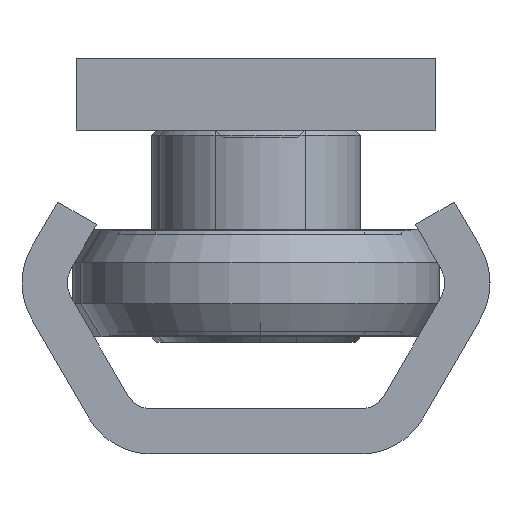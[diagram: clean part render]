
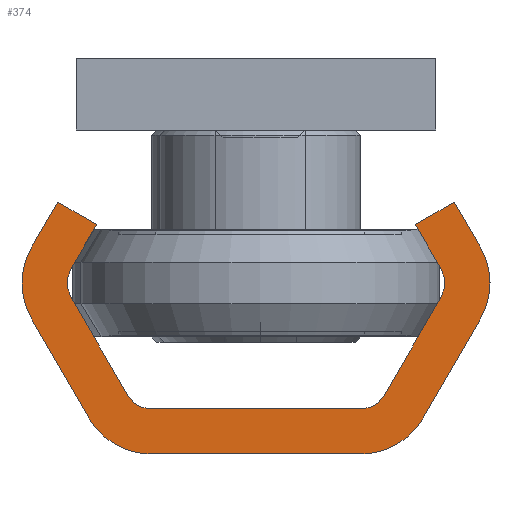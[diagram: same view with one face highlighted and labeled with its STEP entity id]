
A CAD part, left-side view. The second image highlights one B-rep face of the part: STEP entity #374.
In plain terms, the highlighted planar face has unit normal (-1, 0, 0).
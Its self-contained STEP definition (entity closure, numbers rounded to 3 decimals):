
#374 = ADVANCED_FACE( '', ( #838 ), #839, .F. );
#838 = FACE_OUTER_BOUND( '', #1552, .T. );
#839 = PLANE( '', #1553 );
#1552 = EDGE_LOOP( '', ( #2494, #2495, #2496, #2497, #2498, #2499, #2500, #2501, #2502, #2503, #2504, #2505, #2506, #2507, #2508, #2509, #2510, #2511, #2512, #2513 ) );
#1553 = AXIS2_PLACEMENT_3D( '', #2514, #2515, #2516 );
#2494 = ORIENTED_EDGE( '', *, *, #3703, .F. );
#2495 = ORIENTED_EDGE( '', *, *, #3647, .F. );
#2496 = ORIENTED_EDGE( '', *, *, #3704, .F. );
#2497 = ORIENTED_EDGE( '', *, *, #3705, .F. );
#2498 = ORIENTED_EDGE( '', *, *, #3706, .F. );
#2499 = ORIENTED_EDGE( '', *, *, #3707, .F. );
#2500 = ORIENTED_EDGE( '', *, *, #3639, .F. );
#2501 = ORIENTED_EDGE( '', *, *, #3708, .T. );
#2502 = ORIENTED_EDGE( '', *, *, #3709, .F. );
#2503 = ORIENTED_EDGE( '', *, *, #3710, .T. );
#2504 = ORIENTED_EDGE( '', *, *, #3631, .F. );
#2505 = ORIENTED_EDGE( '', *, *, #3636, .T. );
#2506 = ORIENTED_EDGE( '', *, *, #3602, .F. );
#2507 = ORIENTED_EDGE( '', *, *, #3711, .T. );
#2508 = ORIENTED_EDGE( '', *, *, #3712, .F. );
#2509 = ORIENTED_EDGE( '', *, *, #3713, .F. );
#2510 = ORIENTED_EDGE( '', *, *, #3714, .F. );
#2511 = ORIENTED_EDGE( '', *, *, #3715, .F. );
#2512 = ORIENTED_EDGE( '', *, *, #3716, .F. );
#2513 = ORIENTED_EDGE( '', *, *, #3717, .F. );
#2514 = CARTESIAN_POINT( '', ( 0., -5.825, -4. ) );
#2515 = DIRECTION( '', ( 1., 0., 0. ) );
#2516 = DIRECTION( '', ( 0., 0., -1. ) );
#3602 = EDGE_CURVE( '', #4110, #4111, #4112, .T. );
#3631 = EDGE_CURVE( '', #4165, #4166, #4167, .T. );
#3636 = EDGE_CURVE( '', #4165, #4111, #4174, .T. );
#3639 = EDGE_CURVE( '', #4177, #4178, #4179, .T. );
#3647 = EDGE_CURVE( '', #4191, #4192, #4193, .T. );
#3703 = EDGE_CURVE( '', #4192, #4285, #4286, .T. );
#3704 = EDGE_CURVE( '', #4287, #4191, #4288, .T. );
#3705 = EDGE_CURVE( '', #4289, #4287, #4290, .T. );
#3706 = EDGE_CURVE( '', #4291, #4289, #4292, .T. );
#3707 = EDGE_CURVE( '', #4178, #4291, #4293, .T. );
#3708 = EDGE_CURVE( '', #4177, #4294, #4295, .T. );
#3709 = EDGE_CURVE( '', #4296, #4294, #4297, .T. );
#3710 = EDGE_CURVE( '', #4296, #4166, #4298, .T. );
#3711 = EDGE_CURVE( '', #4110, #4299, #4300, .T. );
#3712 = EDGE_CURVE( '', #4301, #4299, #4302, .T. );
#3713 = EDGE_CURVE( '', #4303, #4301, #4304, .T. );
#3714 = EDGE_CURVE( '', #4305, #4303, #4306, .T. );
#3715 = EDGE_CURVE( '', #4307, #4305, #4308, .T. );
#3716 = EDGE_CURVE( '', #4309, #4307, #4310, .T. );
#3717 = EDGE_CURVE( '', #4285, #4309, #4311, .T. );
#4110 = VERTEX_POINT( '', #4851 );
#4111 = VERTEX_POINT( '', #4852 );
#4112 = LINE( '', #4853, #4854 );
#4165 = VERTEX_POINT( '', #4910 );
#4166 = VERTEX_POINT( '', #4911 );
#4167 = LINE( '', #4912, #4913 );
#4174 = CIRCLE( '', #4923, 1.5 );
#4177 = VERTEX_POINT( '', #4926 );
#4178 = VERTEX_POINT( '', #4927 );
#4179 = LINE( '', #4928, #4929 );
#4191 = VERTEX_POINT( '', #4944 );
#4192 = VERTEX_POINT( '', #4945 );
#4193 = CIRCLE( '', #4946, 4. );
#4285 = VERTEX_POINT( '', #5048 );
#4286 = LINE( '', #5049, #5050 );
#4287 = VERTEX_POINT( '', #5051 );
#4288 = LINE( '', #5052, #5053 );
#4289 = VERTEX_POINT( '', #5054 );
#4290 = CIRCLE( '', #5055, 4. );
#4291 = VERTEX_POINT( '', #5056 );
#4292 = LINE( '', #5057, #5058 );
#4293 = LINE( '', #5059, #5060 );
#4294 = VERTEX_POINT( '', #5061 );
#4295 = CIRCLE( '', #5062, 1.5 );
#4296 = VERTEX_POINT( '', #5063 );
#4297 = LINE( '', #5064, #5065 );
#4298 = CIRCLE( '', #5066, 1.5 );
#4299 = VERTEX_POINT( '', #5067 );
#4300 = CIRCLE( '', #5068, 1.5 );
#4301 = VERTEX_POINT( '', #5069 );
#4302 = LINE( '', #5070, #5071 );
#4303 = VERTEX_POINT( '', #5072 );
#4304 = LINE( '', #5073, #5074 );
#4305 = VERTEX_POINT( '', #5075 );
#4306 = LINE( '', #5076, #5077 );
#4307 = VERTEX_POINT( '', #5078 );
#4308 = CIRCLE( '', #5079, 4. );
#4309 = VERTEX_POINT( '', #5080 );
#4310 = LINE( '', #5081, #5082 );
#4311 = CIRCLE( '', #5083, 4. );
#4851 = CARTESIAN_POINT( '', ( 0., -10.299, -8.75 ) );
#4852 = CARTESIAN_POINT( '', ( 0., -7.124, -3.25 ) );
#4853 = CARTESIAN_POINT( '', ( 0., -10.299, -8.75 ) );
#4854 = VECTOR( '', #5663, 1000. );
#4910 = CARTESIAN_POINT( '', ( 0., -5.825, -2.5 ) );
#4911 = CARTESIAN_POINT( '', ( 0., 5.825, -2.5 ) );
#4912 = CARTESIAN_POINT( '', ( 0., -5.825, -2.5 ) );
#4913 = VECTOR( '', #5736, 1000. );
#4923 = AXIS2_PLACEMENT_3D( '', #5740, #5741, #5742 );
#4926 = CARTESIAN_POINT( '', ( 0., 10.299, -10.25 ) );
#4927 = CARTESIAN_POINT( '', ( 0., 8.856, -12.75 ) );
#4928 = CARTESIAN_POINT( '', ( 0., 10.299, -10.25 ) );
#4929 = VECTOR( '', #5746, 1000. );
#4944 = CARTESIAN_POINT( '', ( 0., 9.289, -2. ) );
#4945 = CARTESIAN_POINT( '', ( 0., 5.825, 0. ) );
#4946 = AXIS2_PLACEMENT_3D( '', #5756, #5757, #5758 );
#5048 = CARTESIAN_POINT( '', ( 0., -5.825, 0. ) );
#5049 = CARTESIAN_POINT( '', ( 0., 5.825, 0. ) );
#5050 = VECTOR( '', #5859, 1000. );
#5051 = CARTESIAN_POINT( '', ( 0., 12.464, -7.5 ) );
#5052 = CARTESIAN_POINT( '', ( 0., 12.464, -7.5 ) );
#5053 = VECTOR( '', #5860, 1000. );
#5054 = CARTESIAN_POINT( '', ( 0., 12.464, -11.5 ) );
#5055 = AXIS2_PLACEMENT_3D( '', #5861, #5862, #5863 );
#5056 = CARTESIAN_POINT( '', ( 0., 11.021, -14. ) );
#5057 = CARTESIAN_POINT( '', ( 0., 11.021, -14. ) );
#5058 = VECTOR( '', #5864, 1000. );
#5059 = CARTESIAN_POINT( '', ( 0., 8.856, -12.75 ) );
#5060 = VECTOR( '', #5865, 1000. );
#5061 = CARTESIAN_POINT( '', ( 0., 10.299, -8.75 ) );
#5062 = AXIS2_PLACEMENT_3D( '', #5866, #5867, #5868 );
#5063 = CARTESIAN_POINT( '', ( 0., 7.124, -3.25 ) );
#5064 = CARTESIAN_POINT( '', ( 0., 7.124, -3.25 ) );
#5065 = VECTOR( '', #5869, 1000. );
#5066 = AXIS2_PLACEMENT_3D( '', #5870, #5871, #5872 );
#5067 = CARTESIAN_POINT( '', ( 0., -10.299, -10.25 ) );
#5068 = AXIS2_PLACEMENT_3D( '', #5873, #5874, #5875 );
#5069 = CARTESIAN_POINT( '', ( 0., -8.856, -12.75 ) );
#5070 = CARTESIAN_POINT( '', ( 0., -8.856, -12.75 ) );
#5071 = VECTOR( '', #5876, 1000. );
#5072 = CARTESIAN_POINT( '', ( 0., -11.021, -14. ) );
#5073 = CARTESIAN_POINT( '', ( 0., -11.021, -14. ) );
#5074 = VECTOR( '', #5877, 1000. );
#5075 = CARTESIAN_POINT( '', ( 0., -12.464, -11.5 ) );
#5076 = CARTESIAN_POINT( '', ( 0., -12.464, -11.5 ) );
#5077 = VECTOR( '', #5878, 1000. );
#5078 = CARTESIAN_POINT( '', ( 0., -12.464, -7.5 ) );
#5079 = AXIS2_PLACEMENT_3D( '', #5879, #5880, #5881 );
#5080 = CARTESIAN_POINT( '', ( 0., -9.289, -2. ) );
#5081 = CARTESIAN_POINT( '', ( 0., -9.289, -2. ) );
#5082 = VECTOR( '', #5882, 1000. );
#5083 = AXIS2_PLACEMENT_3D( '', #5883, #5884, #5885 );
#5663 = DIRECTION( '', ( 0., 0.5, 0.866 ) );
#5736 = DIRECTION( '', ( 0., 1., 0. ) );
#5740 = CARTESIAN_POINT( '', ( 0., -5.825, -4. ) );
#5741 = DIRECTION( '', ( 1., 0., 0. ) );
#5742 = DIRECTION( '', ( 0., 0., -1. ) );
#5746 = DIRECTION( '', ( 0., -0.5, -0.866 ) );
#5756 = CARTESIAN_POINT( '', ( 0., 5.825, -4. ) );
#5757 = DIRECTION( '', ( 1., 0., 0. ) );
#5758 = DIRECTION( '', ( 0., 0., -1. ) );
#5859 = DIRECTION( '', ( 0., -1., 0. ) );
#5860 = DIRECTION( '', ( 0., -0.5, 0.866 ) );
#5861 = CARTESIAN_POINT( '', ( 0., 9., -9.5 ) );
#5862 = DIRECTION( '', ( 1., 0., 0. ) );
#5863 = DIRECTION( '', ( 0., 0., -1. ) );
#5864 = DIRECTION( '', ( 0., 0.5, 0.866 ) );
#5865 = DIRECTION( '', ( 0., 0.866, -0.5 ) );
#5866 = CARTESIAN_POINT( '', ( 0., 9., -9.5 ) );
#5867 = DIRECTION( '', ( 1., 0., 0. ) );
#5868 = DIRECTION( '', ( 0., 0., -1. ) );
#5869 = DIRECTION( '', ( 0., 0.5, -0.866 ) );
#5870 = CARTESIAN_POINT( '', ( 0., 5.825, -4. ) );
#5871 = DIRECTION( '', ( 1., 0., 0. ) );
#5872 = DIRECTION( '', ( 0., 0., -1. ) );
#5873 = CARTESIAN_POINT( '', ( 0., -9., -9.5 ) );
#5874 = DIRECTION( '', ( 1., 0., 0. ) );
#5875 = DIRECTION( '', ( 0., 0., -1. ) );
#5876 = DIRECTION( '', ( 0., -0.5, 0.866 ) );
#5877 = DIRECTION( '', ( 0., 0.866, 0.5 ) );
#5878 = DIRECTION( '', ( 0., 0.5, -0.866 ) );
#5879 = CARTESIAN_POINT( '', ( 0., -9., -9.5 ) );
#5880 = DIRECTION( '', ( 1., 0., 0. ) );
#5881 = DIRECTION( '', ( 0., 0., -1. ) );
#5882 = DIRECTION( '', ( 0., -0.5, -0.866 ) );
#5883 = CARTESIAN_POINT( '', ( 0., -5.825, -4. ) );
#5884 = DIRECTION( '', ( 1., 0., 0. ) );
#5885 = DIRECTION( '', ( 0., 0., -1. ) );
